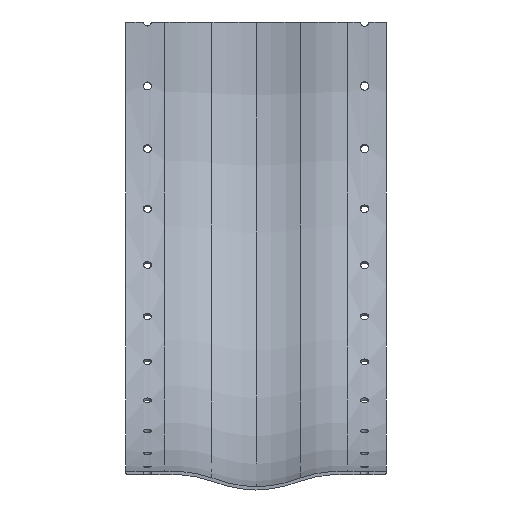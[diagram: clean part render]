
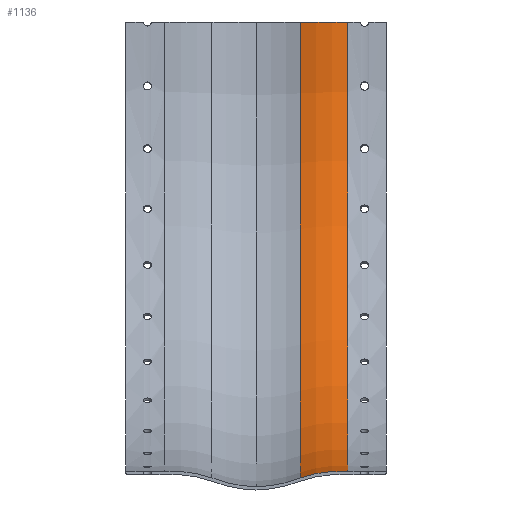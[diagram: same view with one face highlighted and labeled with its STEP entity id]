
A CAD part, front view. The second image highlights one B-rep face of the part: STEP entity #1136.
In plain terms, the highlighted toroidal (fillet/blend) face has major radius 176.409 mm and minor radius 36.741 mm.
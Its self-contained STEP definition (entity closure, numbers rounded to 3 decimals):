
#26=TOROIDAL_SURFACE('',#1235,176.409,36.741);
#82=CIRCLE('',#1166,36.741);
#92=CIRCLE('',#1204,141.751);
#111=CIRCLE('',#1234,139.753);
#112=CIRCLE('',#1236,36.741);
#156=FACE_OUTER_BOUND('',#242,.T.);
#242=EDGE_LOOP('',(#1041,#1042,#1043,#1044));
#460=VERTEX_POINT('',#1935);
#461=VERTEX_POINT('',#1937);
#539=VERTEX_POINT('',#3257);
#548=VERTEX_POINT('',#3297);
#591=EDGE_CURVE('',#461,#460,#82,.T.);
#698=EDGE_CURVE('',#461,#539,#92,.T.);
#719=EDGE_CURVE('',#460,#548,#111,.T.);
#720=EDGE_CURVE('',#539,#548,#112,.T.);
#1041=ORIENTED_EDGE('',*,*,#591,.T.);
#1042=ORIENTED_EDGE('',*,*,#719,.T.);
#1043=ORIENTED_EDGE('',*,*,#720,.F.);
#1044=ORIENTED_EDGE('',*,*,#698,.F.);
#1136=ADVANCED_FACE('',(#156),#26,.T.);
#1166=AXIS2_PLACEMENT_3D('',#1938,#1277,#1278);
#1204=AXIS2_PLACEMENT_3D('',#3258,#1385,#1386);
#1234=AXIS2_PLACEMENT_3D('',#3299,#1447,#1448);
#1235=AXIS2_PLACEMENT_3D('',#3300,#1449,#1450);
#1236=AXIS2_PLACEMENT_3D('',#3301,#1451,#1452);
#1277=DIRECTION('center_axis',(0.,1.,0.));
#1278=DIRECTION('ref_axis',(-0.332,0.,0.943));
#1385=DIRECTION('center_axis',(1.,0.,0.));
#1386=DIRECTION('ref_axis',(0.,0.,-1.));
#1447=DIRECTION('center_axis',(1.,0.,0.));
#1448=DIRECTION('ref_axis',(0.,0.,-1.));
#1449=DIRECTION('center_axis',(1.,0.,0.));
#1450=DIRECTION('ref_axis',(0.,0.,-1.));
#1451=DIRECTION('center_axis',(0.,0.,1.));
#1452=DIRECTION('ref_axis',(-0.332,-0.943,0.));
#1935=CARTESIAN_POINT('',(3630.237,0.,-2125.946));
#1937=CARTESIAN_POINT('',(3615.55,0.,-2127.944));
#1938=CARTESIAN_POINT('Origin',(3627.744,0.,-2162.602));
#3257=CARTESIAN_POINT('',(3615.55,141.751,-1986.193));
#3258=CARTESIAN_POINT('Origin',(3615.55,0.,
-1986.193));
#3297=CARTESIAN_POINT('',(3630.237,139.753,-1986.193));
#3299=CARTESIAN_POINT('Origin',(3630.237,0.,-1986.193));
#3300=CARTESIAN_POINT('Origin',(3627.744,0.,-1986.193));
#3301=CARTESIAN_POINT('Origin',(3627.744,176.409,-1986.193));
